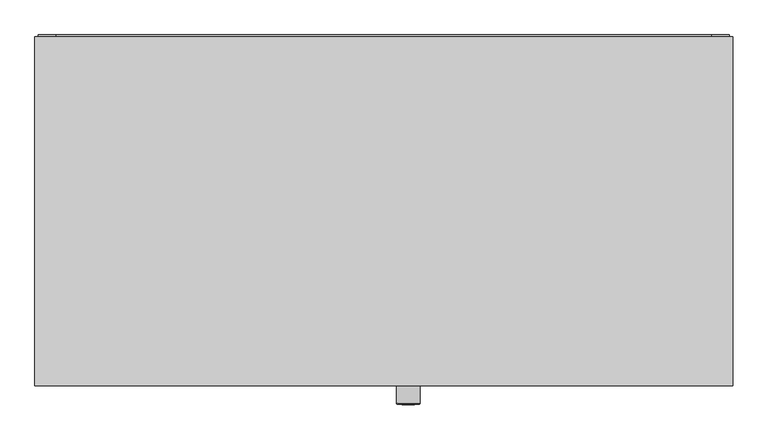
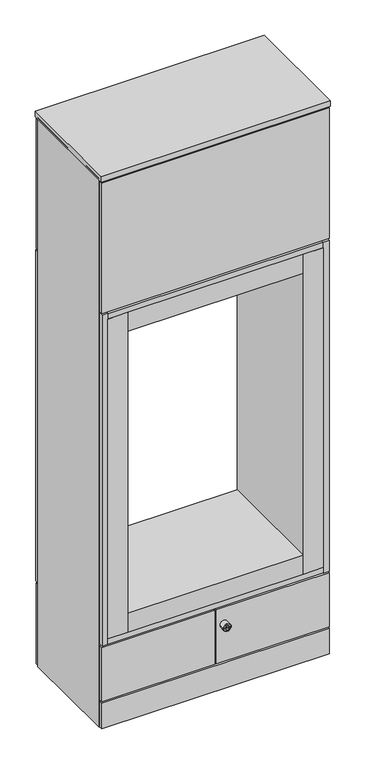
"""IFC4 building model written with IfcOpenShell, lengths in millimetres: furniture geometry, Furniture_Storage_Spacestor_SignatureStoragewall : Snugglestor Backless Single."""

from ifc_helpers import new_model, si_unit, point, frame, origin, origin_with_axes, place, context, project, spatial, polyline, circle_curve, ellipse_curve, trimmed, outline, extrude, source, transform, mapped, element, save
from ifc_brep_helpers import plane_surface, cylinder_surface, revolved_surface, advanced_brep


def furniture_00a0bb52(model_context):
    return source(origin(), model_context, "Body", "SolidModel", [
        extrude(outline(polyline([(996.5, -18.0), (3.5, -18.0), (3.5, 0.0), (996.5, 0.0), (996.5, -18.0)])), origin_with_axes(), (0.0, 0.0, 1.0), 118.0),
        extrude(outline(polyline([(1000.0, -20.5), (0.0, -20.5), (0.0, 479.5), (1000.0, 479.5), (1000.0, -20.5)])), frame((0.0, 0.0, 2525.0), z_axis=(0.0, 0.0, 1.0), x_axis=(1.0, 0.0, 0.0)), (0.0, 0.0, 1.0), 25.5),
        extrude(outline(polyline([(1000.0, 0.0), (989.0, 0.0), (989.0, 459.0), (1000.0, 459.0), (1000.0, 0.0)])), origin_with_axes(), (0.0, 0.0, 1.0), 2532.5),
        extrude(outline(polyline([(11.0, 0.0), (0.0, 0.0), (0.0, 459.0), (11.0, 459.0), (11.0, 0.0)])), origin_with_axes(), (0.0, 0.0, 1.0), 2532.5),
        extrude(outline(polyline([(996.5, 459.0), (3.5, 459.0), (3.5, 477.0), (996.5, 477.0), (996.5, 459.0)])), frame((0.0, 0.0, 1917.0), z_axis=(0.0, 0.0, 1.0), x_axis=(1.0, 0.0, 0.0)), (0.0, 0.0, 1.0), 601.0),
        extrude(outline(polyline([(996.5, -18.0), (3.5, -18.0), (3.5, 0.0), (996.5, 0.0), (996.5, -18.0)])), frame((0.0, 0.0, 1917.0), z_axis=(0.0, 0.0, 1.0), x_axis=(1.0, 0.0, 0.0)), (0.0, 0.0, 1.0), 601.0),
        extrude(outline(polyline([(996.5, 459.0), (3.5, 459.0), (3.5, 477.0), (996.5, 477.0), (996.5, 459.0)])), origin_with_axes(), (0.0, 0.0, 1.0), 374.0),
        extrude(outline(polyline([(989.0, 0.0), (11.0, 0.0), (11.0, 459.0), (989.0, 459.0), (989.0, 0.0)])), frame((0.0, 0.0, 1902.5), z_axis=(0.0, 0.0, 1.0), x_axis=(1.0, 0.0, 0.0)), (0.0, 0.0, 1.0), 22.0),
        extrude(outline(polyline([(970.5, -18.0), (883.5, -18.0), (883.5, 482.0), (970.5, 482.0), (970.5, -18.0)])), frame((0.0, 0.0, 406.5), z_axis=(0.0, 0.0, 1.0), x_axis=(1.0, 0.0, 0.0)), (0.0, 0.0, 1.0), 1476.0),
        extrude(outline(polyline([(116.5, -18.0), (29.5, -18.0), (29.5, 482.0), (116.5, 482.0), (116.5, -18.0)])), frame((0.0, 0.0, 406.5), z_axis=(0.0, 0.0, 1.0), x_axis=(1.0, 0.0, 0.0)), (0.0, 0.0, 1.0), 1476.0),
        extrude(outline(polyline([(883.5, -18.0), (116.5, -18.0), (116.5, 482.0), (883.5, 482.0), (883.5, -18.0)])), frame((0.0, 0.0, 406.5), z_axis=(0.0, 0.0, 1.0), x_axis=(1.0, 0.0, 0.0)), (0.0, 0.0, 1.0), 87.0),
        extrude(outline(polyline([(883.5, -18.0), (116.5, -18.0), (116.5, 482.0), (883.5, 482.0), (883.5, -18.0)])), frame((0.0, 0.0, 1795.5), z_axis=(0.0, 0.0, 1.0), x_axis=(1.0, 0.0, 0.0)), (0.0, 0.0, 1.0), 87.0),
        extrude(outline(polyline([(989.0, 0.0), (11.0, 0.0), (11.0, 459.0), (989.0, 459.0), (989.0, 0.0)])), frame((0.0, 0.0, 110.5), z_axis=(0.0, 0.0, 1.0), x_axis=(1.0, 0.0, 0.0)), (0.0, 0.0, 1.0), 22.0),
        extrude(outline(polyline([(989.0, 0.0), (11.0, 0.0), (11.0, 459.0), (989.0, 459.0), (989.0, 0.0)])), frame((0.0, 0.0, 2510.0), z_axis=(0.0, 0.0, 1.0), x_axis=(1.0, 0.0, 0.0)), (0.0, 0.0, 1.0), 22.0),
        extrude(outline(polyline([(989.0, 0.0), (11.0, 0.0), (11.0, 459.0), (989.0, 459.0), (989.0, 0.0)])), frame((0.0, 0.0, 366.5), z_axis=(0.0, 0.0, 1.0), x_axis=(1.0, 0.0, 0.0)), (0.0, 0.0, 1.0), 22.0),
        extrude(outline(polyline([(970.5, -18.0), (29.5, -18.0), (29.5, 482.0), (970.5, 482.0), (970.5, -18.0)])), frame((0.0, 0.0, 381.5), z_axis=(0.0, 0.0, 1.0), x_axis=(1.0, 0.0, 0.0)), (0.0, 0.0, 1.0), 25.0),
        extrude(outline(polyline([(29.5, -18.0), (4.5, -18.0), (4.5, 482.0), (29.5, 482.0), (29.5, -18.0)])), frame((0.0, 0.0, 381.0), z_axis=(0.0, 0.0, 1.0), x_axis=(1.0, 0.0, 0.0)), (0.0, 0.0, 1.0), 1527.0),
        extrude(outline(polyline([(995.5, -18.0), (970.5, -18.0), (970.5, 482.0), (995.5, 482.0), (995.5, -18.0)])), frame((0.0, 0.0, 381.0), z_axis=(0.0, 0.0, 1.0), x_axis=(1.0, 0.0, 0.0)), (0.0, 0.0, 1.0), 1527.0),
        extrude(outline(polyline([(970.5, -18.0), (29.5, -18.0), (29.5, 482.0), (970.5, 482.0), (970.5, -18.0)])), frame((0.0, 0.0, 1882.5), z_axis=(0.0, 0.0, 1.0), x_axis=(1.0, 0.0, 0.0)), (0.0, 0.0, 1.0), 25.0),
        extrude(outline(polyline([(3.5, -18.0), (3.5, 0.0), (496.5, 0.0), (496.5, -18.0), (3.5, -18.0)])), frame((0.0, 0.0, 125.0), z_axis=(0.0, 0.0, 1.0), x_axis=(1.0, 0.0, 0.0)), (0.0, 0.0, 1.0), 249.0),
        extrude(outline(polyline([(996.5, -18.0), (503.5, -18.0), (503.5, 0.0), (996.5, 0.0), (996.5, -18.0)])), frame((0.0, 0.0, 125.0), z_axis=(0.0, 0.0, 1.0), x_axis=(1.0, 0.0, 0.0)), (0.0, 0.0, 1.0), 249.0),
        advanced_brep(
        [(552.0, -45.3116344, 299.0), (518.0, -45.3116344, 299.0), (518.0, -18.0, 299.0), (552.0, -18.0, 299.0), (535.0, -18.0, 299.0), (543.9747319, -46.3150077, 299.0), (526.0252681, -46.3150077, 299.0), (519.0033734, -46.3150077, 299.0), (550.9966266, -46.3150077, 299.0), (543.9747319, -47.4703043, 299.0), (526.0252681, -47.4703043, 299.0), (539.8245152, -47.4703043, 299.0), (539.8245152, -47.4703043, 297.6366562), (530.1754848, -47.4703043, 297.6366562), (530.1754848, -47.4703043, 299.0), (530.1754848, -47.4703043, 300.3633438), (539.8245152, -47.4703043, 300.3633438), (530.1754848, -27.8604291, 297.6366562), (539.8245152, -27.8604291, 297.6366562), (539.8245152, -27.8604291, 300.3633438), (530.1754848, -27.8604291, 300.3633438)],
        [
            (0, 1, circle_curve(frame((535.0, -45.3116344, 299.0), z_axis=(0.0, 1.0, 0.0), x_axis=(-1.0, 0.0, 0.0)), 17.0)),
            (1, 2),
            (2, 3, circle_curve(frame((535.0, -18.0, 299.0), z_axis=(0.0, -1.0, 0.0), x_axis=(-1.0, 0.0, 0.0)), 17.0)),
            (3, 0),
            (1, 0, circle_curve(frame((535.0, -45.3116344, 299.0), z_axis=(0.0, 1.0, 0.0), x_axis=(-1.0, 0.0, 0.0)), 17.0)),
            (3, 2, circle_curve(frame((535.0, -18.0, 299.0), z_axis=(0.0, -1.0, 0.0), x_axis=(-1.0, 0.0, 0.0)), 17.0)),
            (2, 4),
            (4, 3),
            (5, 6, circle_curve(frame((535.0, -46.3150077, 299.0), z_axis=(0.0, 1.0, 0.0), x_axis=(-1.0, 0.0, 0.0)), 8.9747319)),
            (6, 7),
            (7, 8, circle_curve(frame((535.0, -46.3150077, 299.0), z_axis=(0.0, -1.0, 0.0), x_axis=(-1.0, 0.0, 0.0)), 15.9966266)),
            (8, 5),
            (6, 5, circle_curve(frame((535.0, -46.3150077, 299.0), z_axis=(0.0, 1.0, 0.0), x_axis=(-1.0, 0.0, 0.0)), 8.9747319)),
            (8, 7, circle_curve(frame((535.0, -46.3150077, 299.0), z_axis=(0.0, -1.0, 0.0), x_axis=(-1.0, 0.0, 0.0)), 15.9966266)),
            (0, 8, circle_curve(frame((550.9966266, -45.3116344, 299.0), z_axis=(0.0, 0.0, -1.0), x_axis=(1.0, 0.0, 0.0)), 1.0033734)),
            (7, 1, circle_curve(frame((519.0033734, -45.3116344, 299.0), z_axis=(0.0, 0.0, -1.0), x_axis=(-1.0, 0.0, 0.0)), 1.0033734)),
            (5, 9),
            (9, 10, circle_curve(frame((535.0, -47.4703043, 299.0), z_axis=(0.0, 1.0, 0.0), x_axis=(-1.0, 0.0, 0.0)), 8.9747319)),
            (10, 6),
            (10, 9, circle_curve(frame((535.0, -47.4703043, 299.0), z_axis=(0.0, 1.0, 0.0), x_axis=(-1.0, 0.0, 0.0)), 8.9747319)),
            (9, 11),
            (11, 12),
            (12, 13),
            (13, 14),
            (14, 10),
            (14, 15),
            (15, 16),
            (16, 11),
            (17, 18),
            (18, 19),
            (19, 20),
            (20, 17),
            (17, 13),
            (12, 18),
            (16, 19),
            (15, 20),
        ],
        [
            cylinder_surface(frame((535.0, -2627.0581012, 299.0), z_axis=(0.0, -1.0, 0.0), x_axis=(-1.0, 0.0, 0.0)), 17.0),
            plane_surface(frame((535.0, -18.0, 299.0), z_axis=(0.0, 1.0, 0.0), x_axis=(-1.0, 0.0, 0.0))),
            plane_surface(frame((535.0, -46.3150077, 299.0), z_axis=(0.0, -1.0, 0.0), x_axis=(-1.0, 0.0, 0.0))),
            revolved_surface(trimmed(ellipse_curve(frame((519.0033734, -45.3116344, 299.0), z_axis=(0.0, 0.0, 1.0), x_axis=(-1.0, 0.0, 0.0)), 1.0033734, 1.0033734), [point((518.0, -45.3116344, 299.0))], [point((519.0033734, -46.3150077, 299.0))], True, "CARTESIAN"), (535.0, -2627.0581012, 299.0), (0.0, -1.0, 0.0)),
            cylinder_surface(frame((535.0, -2627.0581012, 299.0), z_axis=(0.0, -1.0, 0.0), x_axis=(-1.0, 0.0, 0.0)), 8.9747319),
            plane_surface(frame((535.0, -47.4703043, 299.0), z_axis=(0.0, -1.0, 0.0), x_axis=(-1.0, 0.0, 0.0))),
            plane_surface(frame((539.4565249, -27.8604291, 297.6366562), z_axis=(0.0, -1.0, 0.0), x_axis=(-1.0, 0.0, 0.0))),
            plane_surface(frame((530.1754848, -49.2046383, 297.6366562), z_axis=(0.0, 0.0, 1.0), x_axis=(0.0, 1.0, 0.0))),
            plane_surface(frame((539.8245152, -49.2046383, 297.6366562), z_axis=(-1.0, 0.0, 0.0), x_axis=(0.0, 1.0, 0.0))),
            plane_surface(frame((539.8245152, -49.2046383, 300.3633438), z_axis=(0.0, 0.0, -1.0), x_axis=(0.0, 1.0, 0.0))),
            plane_surface(frame((530.1754848, -49.2046383, 300.3633438), z_axis=(1.0, 0.0, 0.0), x_axis=(0.0, 1.0, 0.0))),
        ],
        [
            (0, [[1, 2, 3, 4]]),
            (0, [[-2, 5, -4, 6]]),
            (1, [[-3, 7, 8]]),
            (1, [[-6, -8, -7]]),
            (2, [[9, 10, 11, 12]]),
            (2, [[-10, 13, -12, 14]]),
            (3, [[-1, 15, -11, 16]]),
            (3, [[-5, -16, -14, -15]]),
            (4, [[-9, 17, 18, 19]]),
            (4, [[-13, -19, 20, -17]]),
            (5, [[-18, 21, 22, 23, 24, 25]]),
            (5, [[-20, -25, 26, 27, 28, -21]]),
            (6, [[29, 30, 31, 32]]),
            (7, [[-29, 33, -23, 34]]),
            (8, [[-30, -34, -22, -28, 35]]),
            (9, [[-31, -35, -27, 36]]),
            (10, [[-32, -36, -26, -24, -33]]),
        ],
    ),
    ])


if __name__ == "__main__":
    model = new_model("IFC4")
    model_context = context("Model", 3, world=origin())
    ifc_project = project(units=[si_unit("LENGTHUNIT", "METRE", prefix="MILLI")], contexts=[model_context])
    site = spatial("IfcSite", under=ifc_project)
    building = spatial("IfcBuilding", under=site)
    placement = place(None, origin())
    furniture_shape = furniture_00a0bb52(model_context)
    element("IfcFurniture", 1, ObjectType="Furniture_Storage_Spacestor_SignatureStoragewall : Snugglestor Backless Single", at=placement, inside=building, context=model_context, shape_type="MappedRepresentation", body=[
        mapped(furniture_shape, transform((0.0, 0.0, 0.0), x_axis=(1.0, 0.0, 0.0), y_axis=(0.0, 1.0, 0.0), z_axis=(0.0, 0.0, 1.0))),
    ])
    save(model, "model.ifc")
